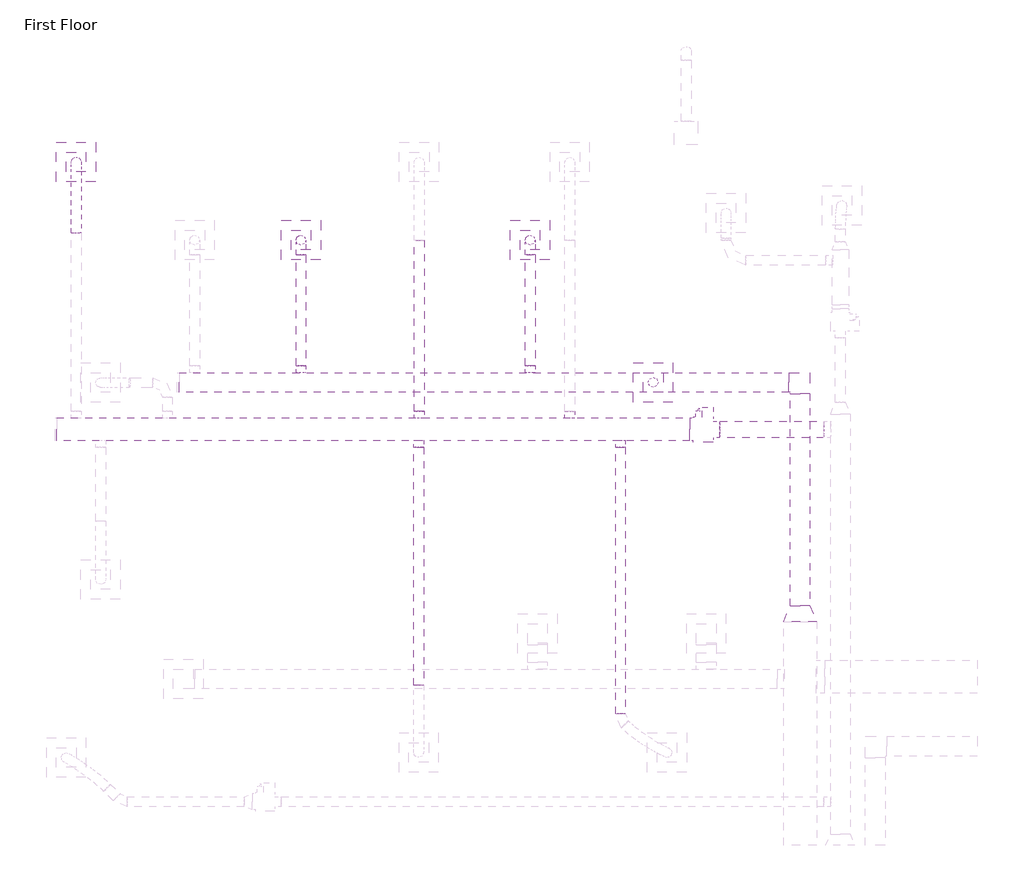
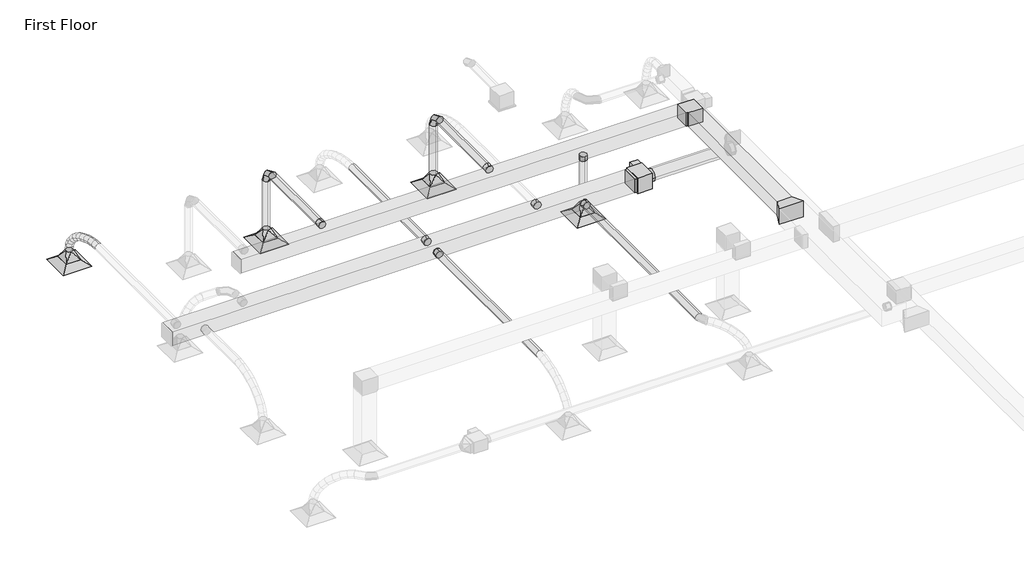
# One storey, part 43 of 61: 15 duct fittings, 13 duct segments, 4 air terminals, 1 proxy.
"""IFC4 building model written with IfcOpenShell, lengths in millimetres."""

from ifc_helpers import new_model, si_unit, point, frame, frame_2d, origin, place, context, project, spatial, polyline, circle_curve, ellipse_curve, trimmed, segment, composite_curve, outline, extrude, transform, mapped, element, save
from ifc_brep_helpers import plane_surface, cylinder_surface, advanced_brep
from components import m_exhaust_grill_er_600_x_600_face_300_x_300_connection_ff221211, m_vav_unit_single_duct_250_mm_b14a1009, m_rectangular_elbow_mitered_standard_8eee5933, m_rectangular_transition_angle_45_degree_a01fcfa2, m_rectangular_to_round_transition_angle_45_degree_8f201c83, m_round_elbow_1_5_d_2e586196, m_round_takeoff_standard_d02f3bf7, m_round_takeoff_standard_2721f8a4

model = new_model("IFC4")

# Units and contexts
model_context = context("Model", 3, world=origin())
ifc_project = project(units=[si_unit("LENGTHUNIT", "METRE", prefix="MILLI")], contexts=[model_context])

# Site, building, storey
site = spatial("IfcSite", under=ifc_project)
building = spatial("IfcBuilding", under=site)
storey = spatial("IfcBuildingStorey", under=building, Name="First Floor", Elevation=0.0)

# Air terminals
placement = place(None, origin())
m_exhaust_grill_er_600_x_600_face_300_x_300_connection_shape = m_exhaust_grill_er_600_x_600_face_300_x_300_connection_ff221211(model_context)
element("IfcAirTerminal", 1, ObjectType="M_Return Register : RR-600 x 600 Face 300 x 300 Connection", at=placement, inside=storey, context=model_context, shape_type="MappedRepresentation", body=[
    mapped(m_exhaust_grill_er_600_x_600_face_300_x_300_connection_shape, transform((-47731.7642293, 53861.7582569, 2680.0), x_axis=(1.0, 0.0, 0.0), y_axis=(0.0, 1.0, 0.0), z_axis=(0.0, 0.0, 1.0))),
])
element("IfcAirTerminal", 2, ObjectType="M_Return Register : RR-600 x 600 Face 300 x 300 Connection", at=placement, inside=storey, context=model_context, shape_type="MappedRepresentation", body=[
    mapped(m_exhaust_grill_er_600_x_600_face_300_x_300_connection_shape, transform((-44242.0500022, 53861.7582569, 2680.0), x_axis=(1.0, 0.0, 0.0), y_axis=(0.0, 1.0, 0.0), z_axis=(0.0, 0.0, 1.0))),
])
element("IfcAirTerminal", 3, ObjectType="M_Return Register : RR-600 x 600 Face 300 x 300 Connection", at=placement, inside=storey, context=model_context, shape_type="MappedRepresentation", body=[
    mapped(m_exhaust_grill_er_600_x_600_face_300_x_300_connection_shape, transform((-42368.4336683, 51694.4273177, 2680.0), x_axis=(1.0, 0.0, 0.0), y_axis=(0.0, 1.0, 0.0), z_axis=(0.0, 0.0, 1.0))),
])
element("IfcAirTerminal", 4, ObjectType="M_Supply Diffuser : SD-600 x 600 Face 300 x 300 Connection", at=placement, inside=storey, context=model_context, shape_type="MappedRepresentation", body=[
    mapped(m_exhaust_grill_er_600_x_600_face_300_x_300_connection_shape, transform((-51155.4342475, 55051.7869292, 2680.0), x_axis=(1.0, 0.0, 0.0), y_axis=(0.0, 1.0, 0.0), z_axis=(0.0, 0.0, 1.0))),
])

# Proxy
m_vav_unit_single_duct_250_mm_shape = m_vav_unit_single_duct_250_mm_b14a1009(model_context)
element("IfcBuildingElementProxy", 5, Name="M_VAV Unit - Single Duct : 250 mm", ObjectType="M_VAV Unit - Single Duct : 250 mm", at=placement, inside=storey, context=model_context, shape_type="MappedRepresentation", body=[
    mapped(m_vav_unit_single_duct_250_mm_shape, transform((-41452.6542232, 50980.7449461, 3500.0), x_axis=(-1.0000000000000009, 0.0, 0.0), y_axis=(0.0, -1.0000000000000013, 0.0), z_axis=(0.0, 0.0, 1.0000000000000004))),
])

# Duct fittings
m_rectangular_elbow_mitered_standard_shape = m_rectangular_elbow_mitered_standard_8eee5933(model_context)
element("IfcDuctFitting", 6, ObjectType="M_Rectangular Elbow - Mitered : Standard", at=placement, inside=storey, context=model_context, shape_type="MappedRepresentation", body=[
    mapped(m_rectangular_elbow_mitered_standard_shape, transform((-40131.0542232, 51694.4273177, 4167.610768), x_axis=(0.0, 1.0, 0.0), y_axis=(-1.0, 0.0, 0.0), z_axis=(0.0, 0.0, 1.0))),
])
m_rectangular_transition_angle_45_degree_shape = m_rectangular_transition_angle_45_degree_a01fcfa2(model_context)
element("IfcDuctFitting", 7, ObjectType="M_Rectangular Transition - Angle : 45 Degree", at=placement, inside=storey, context=model_context, shape_type="MappedRepresentation", body=[
    mapped(m_rectangular_transition_angle_45_degree_shape, transform((-40131.0542232, 48294.4273177, 4167.610768), x_axis=(0.0, -1.0, 0.0), y_axis=(1.0, 0.0, 0.0), z_axis=(0.0, 0.0, 1.0))),
])
m_rectangular_to_round_transition_angle_45_degree_shape = m_rectangular_to_round_transition_angle_45_degree_8f201c83(model_context)
element("IfcDuctFitting", 8, ObjectType="M_Rectangular to Round Transition - Angle : 45 Degree", at=placement, inside=storey, context=model_context, shape_type="MappedRepresentation", body=[
    mapped(m_rectangular_to_round_transition_angle_45_degree_shape, transform((-51155.4342475, 55051.7869292, 2781.6), x_axis=(0.0, 0.0, 1.0), y_axis=(1.0, 0.0, 0.0), z_axis=(0.0, 1.0, 0.0))),
])
element("IfcDuctFitting", 9, ObjectType="M_Rectangular to Round Transition - Angle : 45 Degree", at=placement, inside=storey, context=model_context, shape_type="MappedRepresentation", body=[
    mapped(m_rectangular_to_round_transition_angle_45_degree_shape, transform((-42368.4336683, 51694.4273177, 2781.6), x_axis=(0.0, 0.0, 1.0), y_axis=(1.0, 0.0, 0.0), z_axis=(0.0, 1.0, 0.0))),
])
element("IfcDuctFitting", 10, ObjectType="M_Rectangular to Round Transition - Angle : 45 Degree", at=placement, inside=storey, context=model_context, shape_type="MappedRepresentation", body=[
    mapped(m_rectangular_to_round_transition_angle_45_degree_shape, transform((-47731.7642293, 53861.7582569, 2781.6), x_axis=(0.0, 0.0, 1.0), y_axis=(1.0, 0.0, 0.0), z_axis=(0.0, 1.0, 0.0))),
])
element("IfcDuctFitting", 11, ObjectType="M_Rectangular to Round Transition - Angle : 45 Degree", at=placement, inside=storey, context=model_context, shape_type="MappedRepresentation", body=[
    mapped(m_rectangular_to_round_transition_angle_45_degree_shape, transform((-44242.0500022, 53861.7582569, 2781.6), x_axis=(0.0, 0.0, 1.0), y_axis=(1.0, 0.0, 0.0), z_axis=(0.0, 1.0, 0.0))),
])
m_round_elbow_1_5_d_shape = m_round_elbow_1_5_d_2e586196(model_context)
element("IfcDuctFitting", 12, ObjectType="M_Round Elbow : 1.5 D", at=placement, inside=storey, context=model_context, shape_type="MappedRepresentation", body=[
    mapped(m_round_elbow_1_5_d_shape, transform((-47731.7642293, 53861.7582569, 4259.5), x_axis=(0.0, 0.0, 1.0), y_axis=(0.0, -1.0, 0.0), z_axis=(1.0, 0.0, 0.0))),
])
element("IfcDuctFitting", 13, ObjectType="M_Round Elbow : 1.5 D", at=placement, inside=storey, context=model_context, shape_type="MappedRepresentation", body=[
    mapped(m_round_elbow_1_5_d_shape, transform((-44242.0500022, 53861.7582569, 4259.5), x_axis=(0.0, 0.0, 1.0), y_axis=(0.0, -1.0, 0.0), z_axis=(1.0, 0.0, 0.0))),
])
m_round_takeoff_standard_shape = m_round_takeoff_standard_d02f3bf7(model_context)
element("IfcDuctFitting", 14, ObjectType="M_Round Takeoff : Standard", at=placement, inside=storey, context=model_context, shape_type="MappedRepresentation", body=[
    mapped(m_round_takeoff_standard_shape, transform((-45931.4576084, 51155.7449461, 3669.1), x_axis=(0.0, 1.0, 0.0), y_axis=(1.0, 0.0, 0.0), z_axis=(0.0, 0.0, -1.0))),
])
element("IfcDuctFitting", 15, ObjectType="M_Round Takeoff : Standard", at=placement, inside=storey, context=model_context, shape_type="MappedRepresentation", body=[
    mapped(m_round_takeoff_standard_shape, transform((-43638.1837386, 51155.7449461, 3669.1), x_axis=(0.0, 1.0, 0.0), y_axis=(1.0, 0.0, 0.0), z_axis=(0.0, 0.0, -1.0))),
])
element("IfcDuctFitting", 16, ObjectType="M_Round Takeoff : Standard", at=placement, inside=storey, context=model_context, shape_type="MappedRepresentation", body=[
    mapped(m_round_takeoff_standard_shape, transform((-42368.4336683, 51694.4273177, 4017.610768), x_axis=(0.0, 0.0, -1.0), y_axis=(-1.0, 0.0, 0.0), z_axis=(0.0, 1.0, 0.0))),
])
element("IfcDuctFitting", 17, ObjectType="M_Round Takeoff : Standard", at=placement, inside=storey, context=model_context, shape_type="MappedRepresentation", body=[
    mapped(m_round_takeoff_standard_shape, transform((-47731.7642293, 51844.4273177, 4259.5), x_axis=(0.0, 1.0, 0.0), y_axis=(1.0, 0.0, 0.0), z_axis=(0.0, 0.0, -1.0))),
])
element("IfcDuctFitting", 18, ObjectType="M_Round Takeoff : Standard", at=placement, inside=storey, context=model_context, shape_type="MappedRepresentation", body=[
    mapped(m_round_takeoff_standard_shape, transform((-44242.0500022, 51844.4273177, 4259.5), x_axis=(0.0, 1.0, 0.0), y_axis=(1.0, 0.0, 0.0), z_axis=(0.0, 0.0, -1.0))),
])
m_round_takeoff_standard_2_shape = m_round_takeoff_standard_2721f8a4(model_context)
element("IfcDuctFitting", 19, ObjectType="M_Round Takeoff : Standard", at=placement, inside=storey, context=model_context, shape_type="MappedRepresentation", body=[
    mapped(m_round_takeoff_standard_2_shape, transform((-42866.4659911, 50805.7449461, 3669.1), x_axis=(0.0, -1.0, 0.0), y_axis=(-1.0, 0.0, 0.0), z_axis=(0.0, 0.0, -1.0))),
])
element("IfcDuctFitting", 20, ObjectType="M_Round Takeoff : Standard", at=placement, inside=storey, context=model_context, shape_type="MappedRepresentation", body=[
    mapped(m_round_takeoff_standard_2_shape, transform((-45937.9361632, 50805.7449461, 3669.1), x_axis=(0.0, -1.0, 0.0), y_axis=(-1.0, 0.0, 0.0), z_axis=(0.0, 0.0, -1.0))),
])

# Duct segments
element("IfcDuctSegment", 21, ObjectType="Flex - Round", at=placement, inside=storey, context=model_context, shape_type="AdvancedBrep", body=[
    advanced_brep(
    [(-51230.4342475, 53971.9933125, 3669.1), (-51155.4342475, 53967.4560842, 3594.2373687), (-51080.4342475, 53971.9933125, 3669.1), (-51155.4342475, 53976.5305409, 3743.9626313), (-51230.4342475, 54106.7458871, 3660.9329988), (-51155.4342475, 54098.2314233, 3586.3114174), (-51080.4342475, 54106.7458871, 3660.9329988), (-51155.4342475, 54115.2603509, 3735.5545803), (-51230.4342475, 55051.7869292, 2962.6660172), (-51155.4342475, 55125.9592295, 2973.7777169), (-51080.4342475, 55051.7869292, 2962.6660172), (-51155.4342475, 54977.6146289, 2951.5543174), (-51230.4342475, 54249.4566538, 3636.9220671), (-51155.4342475, 54233.4583714, 3563.55963), (-51080.4342475, 54249.4566538, 3636.9220671), (-51155.4342475, 54265.4549363, 3710.2845041), (-51230.4342475, 54394.9101897, 3597.8023123), (-51155.4342475, 54371.9783154, 3526.304666), (-51080.4342475, 54394.9101897, 3597.8023123), (-51155.4342475, 54417.842064, 3669.2999585), (-51230.4342475, 54537.8910714, 3544.3088419), (-51155.4342475, 54508.0038824, 3475.4133892), (-51080.4342475, 54537.8910714, 3544.3088419), (-51155.4342475, 54567.7782605, 3613.2042947), (-51230.4342475, 54673.1838759, 3477.1767636), (-51155.4342475, 54635.8606734, 3411.9710492), (-51080.4342475, 54673.1838759, 3477.1767636), (-51155.4342475, 54710.5070784, 3542.3824781), (-51230.4342475, 54795.57318, 3397.1411849), (-51155.4342475, 54749.9689909, 3337.3507603), (-51080.4342475, 54795.57318, 3397.1411849), (-51155.4342475, 54841.1773691, 3456.9316096), (-51230.4342475, 54899.8435605, 3304.9372134), (-51155.4342475, 54844.9856339, 3253.3296624), (-51080.4342475, 54899.8435605, 3304.9372134), (-51155.4342475, 54954.7014871, 3356.5447644), (-51230.4342475, 54980.7795943, 3201.2999566), (-51155.4342475, 54916.2579357, 3162.0666551), (-51080.4342475, 54980.7795943, 3201.2999566), (-51155.4342475, 55045.301253, 3240.533258), (-51230.4342475, 55033.1658583, 3086.964522), (-51155.4342475, 54960.564724, 3065.3650484), (-51080.4342475, 55033.1658583, 3086.964522), (-51155.4342475, 55105.7669926, 3108.5639955)],
    [
        (0, 1, circle_curve(frame((-51155.4342475, 53971.9933125, 3669.1), z_axis=(0.0, -0.9981684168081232, 0.06049637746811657), x_axis=(-1.0, 0.0, 0.0)), 75.0)),
        (1, 2, circle_curve(frame((-51155.4342475, 53971.9933125, 3669.1), z_axis=(0.0, -0.9981684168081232, 0.06049637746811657), x_axis=(-1.0, 0.0, 0.0)), 75.0)),
        (2, 3, circle_curve(frame((-51155.4342475, 53971.9933125, 3669.1), z_axis=(0.0, -0.9981684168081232, 0.06049637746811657), x_axis=(-1.0, 0.0, 0.0)), 75.0)),
        (3, 0, circle_curve(frame((-51155.4342475, 53971.9933125, 3669.1), z_axis=(0.0, -0.9981684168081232, 0.06049637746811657), x_axis=(-1.0, 0.0, 0.0)), 75.0)),
        (0, 4),
        (4, 5, ellipse_curve(frame((-51155.4342475, 54106.7458871, 3660.9329988), z_axis=(0.0, -0.9935532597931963, 0.11336630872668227), x_axis=(0.0, -0.11336630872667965, -0.9935532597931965)), 75.1057688, 75.0)),
        (5, 1),
        (5, 6, ellipse_curve(frame((-51155.4342475, 54106.7458871, 3660.9329988), z_axis=(0.0, -0.9935532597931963, 0.11336630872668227), x_axis=(0.0, -0.11336630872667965, -0.9935532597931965)), 75.1057688, 75.0)),
        (6, 2),
        (6, 7, ellipse_curve(frame((-51155.4342475, 54106.7458871, 3660.9329988), z_axis=(0.0, -0.9935532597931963, 0.11336630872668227), x_axis=(0.0, -0.11336630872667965, -0.9935532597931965)), 75.1057688, 75.0)),
        (7, 3),
        (7, 4, ellipse_curve(frame((-51155.4342475, 54106.7458871, 3660.9329988), z_axis=(0.0, -0.9935532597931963, 0.11336630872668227), x_axis=(0.0, -0.11336630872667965, -0.9935532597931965)), 75.1057688, 75.0)),
        (8, 9, circle_curve(frame((-51155.4342475, 55051.7869292, 2962.6660172), z_axis=(0.0, 0.1481559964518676, -0.9889640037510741), x_axis=(-1.0, 0.0, 0.0)), 75.0)),
        (9, 10, circle_curve(frame((-51155.4342475, 55051.7869292, 2962.6660172), z_axis=(0.0, 0.1481559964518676, -0.9889640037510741), x_axis=(-1.0, 0.0, 0.0)), 75.0)),
        (10, 11, circle_curve(frame((-51155.4342475, 55051.7869292, 2962.6660172), z_axis=(0.0, 0.1481559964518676, -0.9889640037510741), x_axis=(-1.0, 0.0, 0.0)), 75.0)),
        (11, 8, circle_curve(frame((-51155.4342475, 55051.7869292, 2962.6660172), z_axis=(0.0, 0.1481559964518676, -0.9889640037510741), x_axis=(-1.0, 0.0, 0.0)), 75.0)),
        (4, 12),
        (12, 13, ellipse_curve(frame((-51155.4342475, 54249.4566538, 3636.9220671), z_axis=(0.0, -0.9770381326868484, 0.21306451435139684), x_axis=(0.0, -0.21306451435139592, -0.9770381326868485)), 75.0865648, 75.0)),
        (13, 5),
        (13, 14, ellipse_curve(frame((-51155.4342475, 54249.4566538, 3636.9220671), z_axis=(0.0, -0.9770381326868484, 0.21306451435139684), x_axis=(0.0, -0.21306451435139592, -0.9770381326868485)), 75.0865648, 75.0)),
        (14, 6),
        (14, 15, ellipse_curve(frame((-51155.4342475, 54249.4566538, 3636.9220671), z_axis=(0.0, -0.9770381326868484, 0.21306451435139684), x_axis=(0.0, -0.21306451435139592, -0.9770381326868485)), 75.0865648, 75.0)),
        (15, 7),
        (15, 12, ellipse_curve(frame((-51155.4342475, 54249.4566538, 3636.9220671), z_axis=(0.0, -0.9770381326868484, 0.21306451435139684), x_axis=(0.0, -0.21306451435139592, -0.9770381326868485)), 75.0865648, 75.0)),
        (12, 16),
        (16, 17, ellipse_curve(frame((-51155.4342475, 54394.9101897, 3597.8023123), z_axis=(0.0, -0.9522204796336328, 0.3054114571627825), x_axis=(0.0, -0.3054114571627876, -0.9522204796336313)), 75.0851802, 75.0)),
        (17, 13),
        (17, 18, ellipse_curve(frame((-51155.4342475, 54394.9101897, 3597.8023123), z_axis=(0.0, -0.9522204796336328, 0.3054114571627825), x_axis=(0.0, -0.3054114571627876, -0.9522204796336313)), 75.0851802, 75.0)),
        (18, 14),
        (18, 19, ellipse_curve(frame((-51155.4342475, 54394.9101897, 3597.8023123), z_axis=(0.0, -0.9522204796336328, 0.3054114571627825), x_axis=(0.0, -0.3054114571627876, -0.9522204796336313)), 75.0851802, 75.0)),
        (19, 15),
        (19, 16, ellipse_curve(frame((-51155.4342475, 54394.9101897, 3597.8023123), z_axis=(0.0, -0.9522204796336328, 0.3054114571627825), x_axis=(0.0, -0.3054114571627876, -0.9522204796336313)), 75.0851802, 75.0)),
        (16, 20),
        (20, 21, ellipse_curve(frame((-51155.4342475, 54537.8910714, 3544.3088419), z_axis=(0.0, -0.9173977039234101, 0.3979716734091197), x_axis=(0.0, -0.39797167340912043, -0.9173977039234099)), 75.0987848, 75.0)),
        (21, 17),
        (21, 22, ellipse_curve(frame((-51155.4342475, 54537.8910714, 3544.3088419), z_axis=(0.0, -0.9173977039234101, 0.3979716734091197), x_axis=(0.0, -0.39797167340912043, -0.9173977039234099)), 75.0987848, 75.0)),
        (22, 18),
        (22, 23, ellipse_curve(frame((-51155.4342475, 54537.8910714, 3544.3088419), z_axis=(0.0, -0.9173977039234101, 0.3979716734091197), x_axis=(0.0, -0.39797167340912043, -0.9173977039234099)), 75.0987848, 75.0)),
        (23, 19),
        (23, 20, ellipse_curve(frame((-51155.4342475, 54537.8910714, 3544.3088419), z_axis=(0.0, -0.9173977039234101, 0.3979716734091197), x_axis=(0.0, -0.39797167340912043, -0.9173977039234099)), 75.0987848, 75.0)),
        (20, 24),
        (24, 25, ellipse_curve(frame((-51155.4342475, 54673.1838759, 3477.1767636), z_axis=(0.0, -0.8678828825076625, 0.4967688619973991), x_axis=(0.0, -0.4967688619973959, -0.8678828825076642)), 75.1319283, 75.0)),
        (25, 21),
        (25, 26, ellipse_curve(frame((-51155.4342475, 54673.1838759, 3477.1767636), z_axis=(0.0, -0.8678828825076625, 0.4967688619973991), x_axis=(0.0, -0.4967688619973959, -0.8678828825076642)), 75.1319283, 75.0)),
        (26, 22),
        (26, 27, ellipse_curve(frame((-51155.4342475, 54673.1838759, 3477.1767636), z_axis=(0.0, -0.8678828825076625, 0.4967688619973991), x_axis=(0.0, -0.4967688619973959, -0.8678828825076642)), 75.1319283, 75.0)),
        (27, 23),
        (27, 24, ellipse_curve(frame((-51155.4342475, 54673.1838759, 3477.1767636), z_axis=(0.0, -0.8678828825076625, 0.4967688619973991), x_axis=(0.0, -0.4967688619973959, -0.8678828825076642)), 75.1319283, 75.0)),
        (24, 28),
        (28, 29, ellipse_curve(frame((-51155.4342475, 54795.57318, 3397.1411849), z_axis=(0.0, -0.795113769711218, 0.6064602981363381), x_axis=(0.0, -0.6064602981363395, -0.795113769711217)), 75.1973201, 75.0)),
        (29, 25),
        (29, 30, ellipse_curve(frame((-51155.4342475, 54795.57318, 3397.1411849), z_axis=(0.0, -0.795113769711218, 0.6064602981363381), x_axis=(0.0, -0.6064602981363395, -0.795113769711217)), 75.1973201, 75.0)),
        (30, 26),
        (30, 31, ellipse_curve(frame((-51155.4342475, 54795.57318, 3397.1411849), z_axis=(0.0, -0.795113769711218, 0.6064602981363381), x_axis=(0.0, -0.6064602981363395, -0.795113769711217)), 75.1973201, 75.0)),
        (31, 27),
        (31, 28, ellipse_curve(frame((-51155.4342475, 54795.57318, 3397.1411849), z_axis=(0.0, -0.795113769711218, 0.6064602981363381), x_axis=(0.0, -0.6064602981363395, -0.795113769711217)), 75.1973201, 75.0)),
        (28, 32),
        (32, 33, ellipse_curve(frame((-51155.4342475, 54899.8435605, 3304.9372134), z_axis=(0.0, -0.685199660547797, 0.72835528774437), x_axis=(0.0, -0.7283552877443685, -0.6851996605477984)), 75.3175373, 75.0)),
        (33, 29),
        (33, 34, ellipse_curve(frame((-51155.4342475, 54899.8435605, 3304.9372134), z_axis=(0.0, -0.685199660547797, 0.72835528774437), x_axis=(0.0, -0.7283552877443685, -0.6851996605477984)), 75.3175373, 75.0)),
        (34, 30),
        (34, 35, ellipse_curve(frame((-51155.4342475, 54899.8435605, 3304.9372134), z_axis=(0.0, -0.685199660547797, 0.72835528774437), x_axis=(0.0, -0.7283552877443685, -0.6851996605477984)), 75.3175373, 75.0)),
        (35, 31),
        (35, 32, ellipse_curve(frame((-51155.4342475, 54899.8435605, 3304.9372134), z_axis=(0.0, -0.685199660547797, 0.72835528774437), x_axis=(0.0, -0.7283552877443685, -0.6851996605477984)), 75.3175373, 75.0)),
        (32, 36),
        (36, 37, ellipse_curve(frame((-51155.4342475, 54980.7795943, 3201.2999566), z_axis=(0.0, -0.5195531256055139, 0.8544381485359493), x_axis=(0.0, -0.8544381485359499, -0.5195531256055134)), 75.513551, 75.0)),
        (37, 33),
        (37, 38, ellipse_curve(frame((-51155.4342475, 54980.7795943, 3201.2999566), z_axis=(0.0, -0.5195531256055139, 0.8544381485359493), x_axis=(0.0, -0.8544381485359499, -0.5195531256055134)), 75.513551, 75.0)),
        (38, 34),
        (38, 39, ellipse_curve(frame((-51155.4342475, 54980.7795943, 3201.2999566), z_axis=(0.0, -0.5195531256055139, 0.8544381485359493), x_axis=(0.0, -0.8544381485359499, -0.5195531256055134)), 75.513551, 75.0)),
        (39, 35),
        (39, 36, ellipse_curve(frame((-51155.4342475, 54980.7795943, 3201.2999566), z_axis=(0.0, -0.5195531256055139, 0.8544381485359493), x_axis=(0.0, -0.8544381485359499, -0.5195531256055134)), 75.513551, 75.0)),
        (36, 40),
        (40, 41, ellipse_curve(frame((-51155.4342475, 55033.1658583, 3086.964522), z_axis=(0.0, -0.28515648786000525, 0.958480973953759), x_axis=(0.0, -0.9584809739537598, -0.2851564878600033)), 75.746036, 75.0)),
        (41, 37),
        (41, 42, ellipse_curve(frame((-51155.4342475, 55033.1658583, 3086.964522), z_axis=(0.0, -0.28515648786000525, 0.958480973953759), x_axis=(0.0, -0.9584809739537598, -0.2851564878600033)), 75.746036, 75.0)),
        (42, 38),
        (42, 43, ellipse_curve(frame((-51155.4342475, 55033.1658583, 3086.964522), z_axis=(0.0, -0.28515648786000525, 0.958480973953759), x_axis=(0.0, -0.9584809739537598, -0.2851564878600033)), 75.746036, 75.0)),
        (43, 39),
        (43, 40, ellipse_curve(frame((-51155.4342475, 55033.1658583, 3086.964522), z_axis=(0.0, -0.28515648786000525, 0.958480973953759), x_axis=(0.0, -0.9584809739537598, -0.2851564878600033)), 75.746036, 75.0)),
        (40, 8),
        (11, 41),
        (10, 42),
        (9, 43),
    ],
    [
        plane_surface(frame((-51155.4342475, 53976.5305409, 3743.9626313), z_axis=(0.0, -0.998168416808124, 0.060496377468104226), x_axis=(1.0, 0.0, 0.0))),
        cylinder_surface(frame((-51155.4342475, 53971.9933125, 3669.1), z_axis=(0.0, -0.9981684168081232, 0.06049637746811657), x_axis=(-1.0, 0.0, 0.0)), 75.0),
        plane_surface(frame((-51155.4342475, 55125.9592295, 2973.7777169), z_axis=(0.0, 0.14815599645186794, -0.988964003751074), x_axis=(1.0, 0.0, 0.0))),
        cylinder_surface(frame((-51155.4342475, 54106.7458871, 3660.9329988), z_axis=(0.0, -0.9861397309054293, 0.16591694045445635), x_axis=(-1.0, 0.0, 0.0)), 75.0),
        cylinder_surface(frame((-51155.4342475, 54249.4566538, 3636.9220671), z_axis=(0.0, -0.9656837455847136, 0.25972081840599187), x_axis=(-1.0, 0.0, 0.0)), 75.0),
        cylinder_surface(frame((-51155.4342475, 54394.9101897, 3597.8023123), z_axis=(0.0, -0.9365967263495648, 0.350409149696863), x_axis=(-1.0, 0.0, 0.0)), 75.0),
        cylinder_surface(frame((-51155.4342475, 54537.8910714, 3544.3088419), z_axis=(0.0, -0.8957851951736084, 0.44448721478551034), x_axis=(-1.0, 0.0, 0.0)), 75.0),
        cylinder_surface(frame((-51155.4342475, 54673.1838759, 3477.1767636), z_axis=(0.0, -0.836932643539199, 0.5473059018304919), x_axis=(-1.0, 0.0, 0.0)), 75.0),
        cylinder_surface(frame((-51155.4342475, 54795.57318, 3397.1411849), z_axis=(0.0, -0.7491220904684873, 0.6624319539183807), x_axis=(-1.0, 0.0, 0.0)), 75.0),
        cylinder_surface(frame((-51155.4342475, 54899.8435605, 3304.9372134), z_axis=(0.0, -0.6154996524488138, 0.7881371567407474), x_axis=(-1.0, 0.0, 0.0)), 75.0),
        cylinder_surface(frame((-51155.4342475, 54980.7795943, 3201.2999566), z_axis=(0.0, -0.41653986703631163, 0.9091174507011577), x_axis=(-1.0, 0.0, 0.0)), 75.0),
        cylinder_surface(frame((-51155.4342475, 55033.1658583, 3086.964522), z_axis=(0.0, -0.1481559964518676, 0.9889640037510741), x_axis=(-1.0, 0.0, 0.0)), 75.0),
    ],
    [
        (0, [[1, 2, 3, 4]]),
        (1, [[-1, 5, 6, 7]]),
        (1, [[-2, -7, 8, 9]]),
        (1, [[-3, -9, 10, 11]]),
        (1, [[-4, -11, 12, -5]]),
        (2, [[13, 14, 15, 16]]),
        (3, [[-6, 17, 18, 19]]),
        (3, [[-8, -19, 20, 21]]),
        (3, [[-10, -21, 22, 23]]),
        (3, [[-12, -23, 24, -17]]),
        (4, [[-18, 25, 26, 27]]),
        (4, [[-20, -27, 28, 29]]),
        (4, [[-22, -29, 30, 31]]),
        (4, [[-24, -31, 32, -25]]),
        (5, [[-26, 33, 34, 35]]),
        (5, [[-28, -35, 36, 37]]),
        (5, [[-30, -37, 38, 39]]),
        (5, [[-32, -39, 40, -33]]),
        (6, [[-34, 41, 42, 43]]),
        (6, [[-36, -43, 44, 45]]),
        (6, [[-38, -45, 46, 47]]),
        (6, [[-40, -47, 48, -41]]),
        (7, [[-42, 49, 50, 51]]),
        (7, [[-44, -51, 52, 53]]),
        (7, [[-46, -53, 54, 55]]),
        (7, [[-48, -55, 56, -49]]),
        (8, [[-50, 57, 58, 59]]),
        (8, [[-52, -59, 60, 61]]),
        (8, [[-54, -61, 62, 63]]),
        (8, [[-56, -63, 64, -57]]),
        (9, [[-58, 65, 66, 67]]),
        (9, [[-60, -67, 68, 69]]),
        (9, [[-62, -69, 70, 71]]),
        (9, [[-64, -71, 72, -65]]),
        (10, [[-66, 73, 74, 75]]),
        (10, [[-68, -75, 76, 77]]),
        (10, [[-70, -77, 78, 79]]),
        (10, [[-72, -79, 80, -73]]),
        (11, [[-74, 81, -16, 82]]),
        (11, [[-76, -82, -15, 83]]),
        (11, [[-78, -83, -14, 84]]),
        (11, [[-80, -84, -13, -81]]),
    ],
),
])
element("IfcDuctSegment", 22, ObjectType="Mitered Elbows / Taps", at=placement, inside=storey, context=model_context, shape_type="SweptSolid", body=[
    extrude(outline(polyline([(-49588.4336683, 51544.4273177), (-49588.4336683, 51844.4273177), (-40306.0542232, 51844.4273177), (-40306.0542232, 51544.4273177), (-49588.4336683, 51544.4273177)])), frame((0.0, 0.0, 4017.610768), z_axis=(0.0, 0.0, 1.0), x_axis=(1.0, 0.0, 0.0)), (0.0, 0.0, 1.0), 300.0),
])
element("IfcDuctSegment", 23, ObjectType="Mitered Elbows / Taps", at=placement, inside=storey, context=model_context, shape_type="SweptSolid", body=[
    extrude(outline(polyline([(-40281.0542232, 51519.4273177), (-39981.0542232, 51519.4273177), (-39981.0542232, 48294.4273177), (-40281.0542232, 48294.4273177), (-40281.0542232, 51519.4273177)])), frame((0.0, 0.0, 4017.610768), z_axis=(0.0, 0.0, 1.0), x_axis=(1.0, 0.0, 0.0)), (0.0, 0.0, 1.0), 300.0),
])
element("IfcDuctSegment", 24, ObjectType="Radius Elbows / Tees", at=placement, inside=storey, context=model_context, shape_type="SweptSolid", body=[
    extrude(outline(polyline([(-41808.4542232, 51155.7449461), (-41808.4542232, 50805.7449461), (-51448.4542232, 50805.7449461), (-51448.4542232, 51155.7449461), (-41808.4542232, 51155.7449461)])), frame((0.0, 0.0, 3519.05), z_axis=(0.0, 0.0, 1.0), x_axis=(1.0, 0.0, 0.0)), (0.0, 0.0, 1.0), 300.0),
])
element("IfcDuctSegment", 25, ObjectType="Taps", at=placement, inside=storey, context=model_context, shape_type="SweptSolid", body=[
    extrude(outline(composite_curve([segment(trimmed(circle_curve(frame_2d((3669.1, -45931.4576084)), 75.0), [point((3669.1, -45856.4576084))], [point((3744.1, -45931.4576084))], False, "CARTESIAN"), True, "CONTINUOUS"), segment(trimmed(circle_curve(frame_2d((3669.1, -45931.4576084)), 75.0), [point((3744.1, -45931.4576084))], [point((3669.1, -46006.4576084))], False, "CARTESIAN"), True, "CONTINUOUS"), segment(trimmed(circle_curve(frame_2d((3669.1, -45931.4576084)), 75.0), [point((3669.1, -46006.4576084))], [point((3594.1, -45931.4576084))], False, "CARTESIAN"), True, "CONTINUOUS"), segment(trimmed(circle_curve(frame_2d((3669.1, -45931.4576084)), 75.0), [point((3594.1, -45931.4576084))], [point((3669.1, -45856.4576084))], False, "CARTESIAN"), True, "CONTINUOUS")], self_intersect=False)), frame((0.0, 51255.7449461, 0.0), z_axis=(0.0, 1.0, 0.0), x_axis=(0.0, 0.0, 1.0)), (0.0, 0.0, 1.0), 2606.0133109),
])
element("IfcDuctSegment", 26, ObjectType="Taps", at=placement, inside=storey, context=model_context, shape_type="SweptSolid", body=[
    extrude(outline(composite_curve([segment(trimmed(circle_curve(frame_2d((3669.1, -42866.4659911)), 75.0), [point((3669.1, -42941.4659911))], [point((3594.1, -42866.4659911))], False, "CARTESIAN"), True, "CONTINUOUS"), segment(trimmed(circle_curve(frame_2d((3669.1, -42866.4659911)), 75.0), [point((3594.1, -42866.4659911))], [point((3669.1, -42791.4659911))], False, "CARTESIAN"), True, "CONTINUOUS"), segment(trimmed(circle_curve(frame_2d((3669.1, -42866.4659911)), 75.0), [point((3669.1, -42791.4659911))], [point((3744.1, -42866.4659911))], False, "CARTESIAN"), True, "CONTINUOUS"), segment(trimmed(circle_curve(frame_2d((3669.1, -42866.4659911)), 75.0), [point((3744.1, -42866.4659911))], [point((3669.1, -42941.4659911))], False, "CARTESIAN"), True, "CONTINUOUS")], self_intersect=False)), frame((0.0, 46649.9043763, 0.0), z_axis=(0.0, 1.0, 0.0), x_axis=(0.0, 0.0, 1.0)), (0.0, 0.0, 1.0), 4055.8405698),
])
element("IfcDuctSegment", 27, ObjectType="Taps", at=placement, inside=storey, context=model_context, shape_type="SweptSolid", body=[
    extrude(outline(composite_curve([segment(trimmed(circle_curve(frame_2d((3669.1, -45937.9361632)), 75.0), [point((3669.1, -46012.9361632))], [point((3594.1, -45937.9361632))], False, "CARTESIAN"), True, "CONTINUOUS"), segment(trimmed(circle_curve(frame_2d((3669.1, -45937.9361632)), 75.0), [point((3594.1, -45937.9361632))], [point((3669.1, -45862.9361632))], False, "CARTESIAN"), True, "CONTINUOUS"), segment(trimmed(circle_curve(frame_2d((3669.1, -45937.9361632)), 75.0), [point((3669.1, -45862.9361632))], [point((3744.1, -45937.9361632))], False, "CARTESIAN"), True, "CONTINUOUS"), segment(trimmed(circle_curve(frame_2d((3669.1, -45937.9361632)), 75.0), [point((3744.1, -45937.9361632))], [point((3669.1, -46012.9361632))], False, "CARTESIAN"), True, "CONTINUOUS")], self_intersect=False)), frame((0.0, 47080.7449461, 0.0), z_axis=(0.0, 1.0, 0.0), x_axis=(0.0, 0.0, 1.0)), (0.0, 0.0, 1.0), 3625.0),
])
element("IfcDuctSegment", 28, ObjectType="Taps", at=placement, inside=storey, context=model_context, shape_type="SweptSolid", body=[
    extrude(outline(composite_curve([segment(trimmed(circle_curve(frame_2d((-42368.4336683, 51694.4273177)), 75.0), [point((-42293.4336683, 51694.4273177))], [point((-42368.4336683, 51619.4273177))], False, "CARTESIAN"), True, "CONTINUOUS"), segment(trimmed(circle_curve(frame_2d((-42368.4336683, 51694.4273177)), 75.0), [point((-42368.4336683, 51619.4273177))], [point((-42443.4336683, 51694.4273177))], False, "CARTESIAN"), True, "CONTINUOUS"), segment(trimmed(circle_curve(frame_2d((-42368.4336683, 51694.4273177)), 75.0), [point((-42443.4336683, 51694.4273177))], [point((-42368.4336683, 51769.4273177))], False, "CARTESIAN"), True, "CONTINUOUS"), segment(trimmed(circle_curve(frame_2d((-42368.4336683, 51694.4273177)), 75.0), [point((-42368.4336683, 51769.4273177))], [point((-42293.4336683, 51694.4273177))], False, "CARTESIAN"), True, "CONTINUOUS")], self_intersect=False)), frame((0.0, 0.0, 2962.6660172), z_axis=(0.0, 0.0, 1.0), x_axis=(1.0, 0.0, 0.0)), (0.0, 0.0, 1.0), 954.9447508),
])
element("IfcDuctSegment", 29, ObjectType="Taps", at=placement, inside=storey, context=model_context, shape_type="SweptSolid", body=[
    extrude(outline(composite_curve([segment(trimmed(circle_curve(frame_2d((4259.5, -47731.7642293)), 75.0), [point((4259.5, -47806.7642293))], [point((4184.5, -47731.7642293))], False, "CARTESIAN"), True, "CONTINUOUS"), segment(trimmed(circle_curve(frame_2d((4259.5, -47731.7642293)), 75.0), [point((4184.5, -47731.7642293))], [point((4259.5, -47656.7642293))], False, "CARTESIAN"), True, "CONTINUOUS"), segment(trimmed(circle_curve(frame_2d((4259.5, -47731.7642293)), 75.0), [point((4259.5, -47656.7642293))], [point((4334.5, -47731.7642293))], False, "CARTESIAN"), True, "CONTINUOUS"), segment(trimmed(circle_curve(frame_2d((4259.5, -47731.7642293)), 75.0), [point((4334.5, -47731.7642293))], [point((4259.5, -47806.7642293))], False, "CARTESIAN"), True, "CONTINUOUS")], self_intersect=False)), frame((0.0, 51944.4273177, 0.0), z_axis=(0.0, 1.0, 0.0), x_axis=(0.0, 0.0, 1.0)), (0.0, 0.0, 1.0), 1692.3309392),
])
element("IfcDuctSegment", 30, ObjectType="Taps", at=placement, inside=storey, context=model_context, shape_type="SweptSolid", body=[
    extrude(outline(composite_curve([segment(trimmed(circle_curve(frame_2d((-47731.7642293, 53861.7582569)), 75.0), [point((-47806.7642293, 53861.7582569))], [point((-47731.7642293, 53936.7582569))], False, "CARTESIAN"), True, "CONTINUOUS"), segment(trimmed(circle_curve(frame_2d((-47731.7642293, 53861.7582569)), 75.0), [point((-47731.7642293, 53936.7582569))], [point((-47656.7642293, 53861.7582569))], False, "CARTESIAN"), True, "CONTINUOUS"), segment(trimmed(circle_curve(frame_2d((-47731.7642293, 53861.7582569)), 75.0), [point((-47656.7642293, 53861.7582569))], [point((-47731.7642293, 53786.7582569))], False, "CARTESIAN"), True, "CONTINUOUS"), segment(trimmed(circle_curve(frame_2d((-47731.7642293, 53861.7582569)), 75.0), [point((-47731.7642293, 53786.7582569))], [point((-47806.7642293, 53861.7582569))], False, "CARTESIAN"), True, "CONTINUOUS")], self_intersect=False)), frame((0.0, 0.0, 2962.6660172), z_axis=(0.0, 0.0, 1.0), x_axis=(1.0, 0.0, 0.0)), (0.0, 0.0, 1.0), 1071.8339828),
])
element("IfcDuctSegment", 31, ObjectType="Taps", at=placement, inside=storey, context=model_context, shape_type="SweptSolid", body=[
    extrude(outline(composite_curve([segment(trimmed(circle_curve(frame_2d((4259.5, -44242.0500022)), 75.0), [point((4259.5, -44317.0500022))], [point((4184.5, -44242.0500022))], False, "CARTESIAN"), True, "CONTINUOUS"), segment(trimmed(circle_curve(frame_2d((4259.5, -44242.0500022)), 75.0), [point((4184.5, -44242.0500022))], [point((4259.5, -44167.0500022))], False, "CARTESIAN"), True, "CONTINUOUS"), segment(trimmed(circle_curve(frame_2d((4259.5, -44242.0500022)), 75.0), [point((4259.5, -44167.0500022))], [point((4334.5, -44242.0500022))], False, "CARTESIAN"), True, "CONTINUOUS"), segment(trimmed(circle_curve(frame_2d((4259.5, -44242.0500022)), 75.0), [point((4334.5, -44242.0500022))], [point((4259.5, -44317.0500022))], False, "CARTESIAN"), True, "CONTINUOUS")], self_intersect=False)), frame((0.0, 51944.4273177, 0.0), z_axis=(0.0, 1.0, 0.0), x_axis=(0.0, 0.0, 1.0)), (0.0, 0.0, 1.0), 1692.3309392),
])
element("IfcDuctSegment", 32, ObjectType="Taps", at=placement, inside=storey, context=model_context, shape_type="SweptSolid", body=[
    extrude(outline(composite_curve([segment(trimmed(circle_curve(frame_2d((-44242.0500022, 53861.7582569)), 75.0), [point((-44317.0500022, 53861.7582569))], [point((-44242.0500022, 53936.7582569))], False, "CARTESIAN"), True, "CONTINUOUS"), segment(trimmed(circle_curve(frame_2d((-44242.0500022, 53861.7582569)), 75.0), [point((-44242.0500022, 53936.7582569))], [point((-44167.0500022, 53861.7582569))], False, "CARTESIAN"), True, "CONTINUOUS"), segment(trimmed(circle_curve(frame_2d((-44242.0500022, 53861.7582569)), 75.0), [point((-44167.0500022, 53861.7582569))], [point((-44242.0500022, 53786.7582569))], False, "CARTESIAN"), True, "CONTINUOUS"), segment(trimmed(circle_curve(frame_2d((-44242.0500022, 53861.7582569)), 75.0), [point((-44242.0500022, 53786.7582569))], [point((-44317.0500022, 53861.7582569))], False, "CARTESIAN"), True, "CONTINUOUS")], self_intersect=False)), frame((0.0, 0.0, 2962.6660172), z_axis=(0.0, 0.0, 1.0), x_axis=(1.0, 0.0, 0.0)), (0.0, 0.0, 1.0), 1071.8339828),
])
element("IfcDuctSegment", 33, ObjectType="Taps", at=placement, inside=storey, context=model_context, shape_type="SweptSolid", body=[
    extrude(outline(composite_curve([segment(trimmed(circle_curve(frame_2d((0.0, -125.0)), 125.0), [point((-125.0, -125.0))], [point((0.0, 0.0))], False, "CARTESIAN"), True, "CONTINUOUS"), segment(trimmed(circle_curve(frame_2d((0.0, -125.0)), 125.0), [point((0.0, 0.0))], [point((125.0, -125.0))], False, "CARTESIAN"), True, "CONTINUOUS"), segment(trimmed(circle_curve(frame_2d((0.0, -125.0)), 125.0), [point((125.0, -125.0))], [point((0.0, -250.0))], False, "CARTESIAN"), True, "CONTINUOUS"), segment(trimmed(circle_curve(frame_2d((0.0, -125.0)), 125.0), [point((0.0, -250.0))], [point((-125.0, -125.0))], False, "CARTESIAN"), True, "CONTINUOUS")], self_intersect=False)), frame((-39767.6221491, 50979.8949461, 3534.5034089), z_axis=(-0.9999999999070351, 0.0, 1.3635603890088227e-05), x_axis=(0.0, 1.0, 0.0)), (0.0, 0.0, 1.0), 1583.4337788),
])

save(model, "model.ifc")
